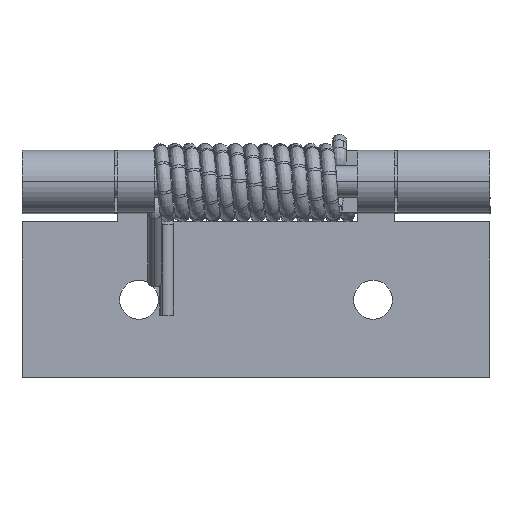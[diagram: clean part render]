
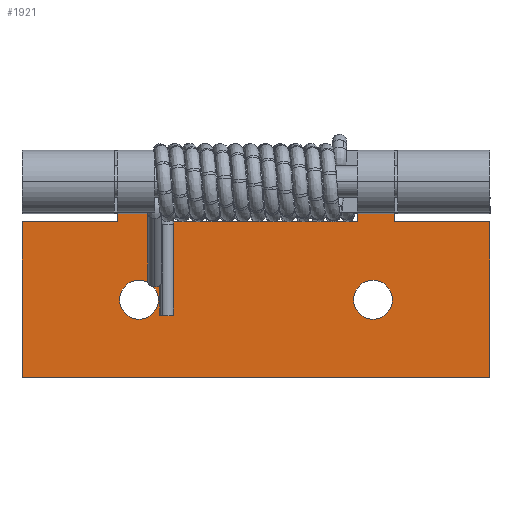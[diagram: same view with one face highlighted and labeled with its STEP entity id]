
A CAD part, left-side view. The second image highlights one B-rep face of the part: STEP entity #1921.
In plain terms, the highlighted planar face has unit normal (-1, 0, 0) as drawn and (0, 1, 0) by its records, which use the part's own axes.
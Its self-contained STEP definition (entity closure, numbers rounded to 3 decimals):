
#1016=CARTESIAN_POINT('',(-4.5,-2.0,-12.5));
#1017=VERTEX_POINT('',#1016);
#1026=CARTESIAN_POINT('',(-4.5,-2.0,-7.5));
#1027=VERTEX_POINT('',#1026);
#1028=CARTESIAN_POINT('',(-4.5,-2.0,-10.0));
#1029=DIRECTION('',(0.0,-1.0,0.0));
#1030=DIRECTION('',(0.0,0.0,-1.0));
#1031=AXIS2_PLACEMENT_3D('',#1028,#1029,#1030);
#1032=CIRCLE('',#1031,2.5);
#1033=EDGE_CURVE('',#1027,#1017,#1032,.T.);
#1060=CARTESIAN_POINT('',(-4.5,-2.0,22.5));
#1061=VERTEX_POINT('',#1060);
#1077=CARTESIAN_POINT('',(-4.5,-2.0,17.5));
#1078=VERTEX_POINT('',#1077);
#1085=CARTESIAN_POINT('',(-4.5,-2.0,20.0));
#1086=DIRECTION('',(0.0,-1.0,0.0));
#1087=DIRECTION('',(0.0,0.0,1.0));
#1088=AXIS2_PLACEMENT_3D('',#1085,#1086,#1087);
#1089=CIRCLE('',#1088,2.5);
#1090=EDGE_CURVE('',#1061,#1078,#1089,.T.);
#1152=CARTESIAN_POINT('',(10.5,-2.,-12.8));
#1153=VERTEX_POINT('',#1152);
#1161=CARTESIAN_POINT('',(10.5,-2.,-8.0));
#1162=VERTEX_POINT('',#1161);
#1163=CARTESIAN_POINT('',(10.5,-2.,-12.8));
#1164=DIRECTION('',(0.0,0.0,1.0));
#1165=VECTOR('',#1164,4.8);
#1166=LINE('',#1163,#1165);
#1167=EDGE_CURVE('',#1153,#1162,#1166,.T.);
#1236=CARTESIAN_POINT('',(10.5,-2.,18.0));
#1237=VERTEX_POINT('',#1236);
#1245=CARTESIAN_POINT('',(10.5,-2.,22.8));
#1246=VERTEX_POINT('',#1245);
#1247=CARTESIAN_POINT('',(10.5,-2.,18.0));
#1248=DIRECTION('',(0.0,0.0,1.0));
#1249=VECTOR('',#1248,4.8);
#1250=LINE('',#1247,#1249);
#1251=EDGE_CURVE('',#1237,#1246,#1250,.T.);
#1435=CARTESIAN_POINT('',(5.5,-2.0,-12.8));
#1436=VERTEX_POINT('',#1435);
#1443=CARTESIAN_POINT('',(10.5,-2.,-12.8));
#1444=DIRECTION('',(-1.0,0.0,0.0));
#1445=VECTOR('',#1444,5.);
#1446=LINE('',#1443,#1445);
#1447=EDGE_CURVE('',#1153,#1436,#1446,.T.);
#1474=CARTESIAN_POINT('',(5.5,-2.0,-25.0));
#1475=VERTEX_POINT('',#1474);
#1476=CARTESIAN_POINT('',(5.5,-2.0,-12.8));
#1477=DIRECTION('',(0.0,0.0,-1.0));
#1478=VECTOR('',#1477,12.2);
#1479=LINE('',#1476,#1478);
#1480=EDGE_CURVE('',#1436,#1475,#1479,.T.);
#1505=CARTESIAN_POINT('',(5.5,-2.0,18.0));
#1506=VERTEX_POINT('',#1505);
#1507=CARTESIAN_POINT('',(5.5,-2.0,-8.0));
#1508=VERTEX_POINT('',#1507);
#1509=CARTESIAN_POINT('',(5.5,-2.0,18.0));
#1510=DIRECTION('',(0.0,0.0,-1.0));
#1511=VECTOR('',#1510,26.0);
#1512=LINE('',#1509,#1511);
#1513=EDGE_CURVE('',#1506,#1508,#1512,.T.);
#1545=CARTESIAN_POINT('',(5.5,-2.0,-8.0));
#1546=DIRECTION('',(1.0,0.0,0.0));
#1547=VECTOR('',#1546,5.);
#1548=LINE('',#1545,#1547);
#1549=EDGE_CURVE('',#1508,#1162,#1548,.T.);
#1592=CARTESIAN_POINT('',(10.5,-2.,18.0));
#1593=DIRECTION('',(-1.0,0.0,0.0));
#1594=VECTOR('',#1593,5.);
#1595=LINE('',#1592,#1594);
#1596=EDGE_CURVE('',#1237,#1506,#1595,.T.);
#1655=CARTESIAN_POINT('',(5.5,-2.0,22.8));
#1656=VERTEX_POINT('',#1655);
#1657=CARTESIAN_POINT('',(5.5,-2.0,22.8));
#1658=DIRECTION('',(1.0,0.0,0.0));
#1659=VECTOR('',#1658,5.);
#1660=LINE('',#1657,#1659);
#1661=EDGE_CURVE('',#1656,#1246,#1660,.T.);
#1695=CARTESIAN_POINT('',(5.5,-2.0,35.0));
#1696=VERTEX_POINT('',#1695);
#1697=CARTESIAN_POINT('',(5.5,-2.0,35.0));
#1698=DIRECTION('',(0.0,0.0,-1.0));
#1699=VECTOR('',#1698,12.2);
#1700=LINE('',#1697,#1699);
#1701=EDGE_CURVE('',#1696,#1656,#1700,.T.);
#1809=CARTESIAN_POINT('',(-14.5,-2.0,35.0));
#1810=VERTEX_POINT('',#1809);
#1811=CARTESIAN_POINT('',(-14.5,-2.0,35.0));
#1812=DIRECTION('',(1.0,0.0,0.0));
#1813=VECTOR('',#1812,20.);
#1814=LINE('',#1811,#1813);
#1815=EDGE_CURVE('',#1810,#1696,#1814,.T.);
#1840=CARTESIAN_POINT('',(-4.5,-2.0,20.0));
#1841=DIRECTION('',(0.0,-1.0,0.0));
#1842=DIRECTION('',(0.0,0.0,1.0));
#1843=AXIS2_PLACEMENT_3D('',#1840,#1841,#1842);
#1844=CIRCLE('',#1843,2.5);
#1845=EDGE_CURVE('',#1078,#1061,#1844,.T.);
#1872=CARTESIAN_POINT('',(-4.5,-2.0,-10.0));
#1873=DIRECTION('',(0.0,-1.0,0.0));
#1874=DIRECTION('',(0.0,0.0,-1.0));
#1875=AXIS2_PLACEMENT_3D('',#1872,#1873,#1874);
#1876=CIRCLE('',#1875,2.5);
#1877=EDGE_CURVE('',#1017,#1027,#1876,.T.);
#1882=CARTESIAN_POINT('',(-14.5,-2.0,-25.0));
#1883=DIRECTION('',(0.0,1.0,0.0));
#1884=DIRECTION('',(0.0,0.0,1.0));
#1885=AXIS2_PLACEMENT_3D('',#1882,#1883,#1884);
#1886=PLANE('',#1885);
#1887=ORIENTED_EDGE('',*,*,#1480,.T.);
#1888=CARTESIAN_POINT('',(-14.5,-2.0,-25.0));
#1889=VERTEX_POINT('',#1888);
#1890=CARTESIAN_POINT('',(5.5,-2.0,-25.0));
#1891=DIRECTION('',(-1.0,0.0,0.0));
#1892=VECTOR('',#1891,20.);
#1893=LINE('',#1890,#1892);
#1894=EDGE_CURVE('',#1475,#1889,#1893,.T.);
#1895=ORIENTED_EDGE('',*,*,#1894,.T.);
#1896=CARTESIAN_POINT('',(-14.5,-2.0,-25.0));
#1897=DIRECTION('',(0.0,0.0,1.0));
#1898=VECTOR('',#1897,60.0);
#1899=LINE('',#1896,#1898);
#1900=EDGE_CURVE('',#1889,#1810,#1899,.T.);
#1901=ORIENTED_EDGE('',*,*,#1900,.T.);
#1902=ORIENTED_EDGE('',*,*,#1815,.T.);
#1903=ORIENTED_EDGE('',*,*,#1701,.T.);
#1904=ORIENTED_EDGE('',*,*,#1661,.T.);
#1905=ORIENTED_EDGE('',*,*,#1251,.F.);
#1906=ORIENTED_EDGE('',*,*,#1596,.T.);
#1907=ORIENTED_EDGE('',*,*,#1513,.T.);
#1908=ORIENTED_EDGE('',*,*,#1549,.T.);
#1909=ORIENTED_EDGE('',*,*,#1167,.F.);
#1910=ORIENTED_EDGE('',*,*,#1447,.T.);
#1911=EDGE_LOOP('',(#1887,#1895,#1901,#1902,#1903,#1904,#1905,#1906,#1907,#1908,#1909,#1910));
#1912=FACE_OUTER_BOUND('',#1911,.T.);
#1913=ORIENTED_EDGE('',*,*,#1090,.T.);
#1914=ORIENTED_EDGE('',*,*,#1845,.T.);
#1915=EDGE_LOOP('',(#1913,#1914));
#1916=FACE_BOUND('',#1915,.T.);
#1917=ORIENTED_EDGE('',*,*,#1033,.T.);
#1918=ORIENTED_EDGE('',*,*,#1877,.T.);
#1919=EDGE_LOOP('',(#1917,#1918));
#1920=FACE_BOUND('',#1919,.T.);
#1921=ADVANCED_FACE('',(#1912,#1916,#1920),#1886,.T.);
